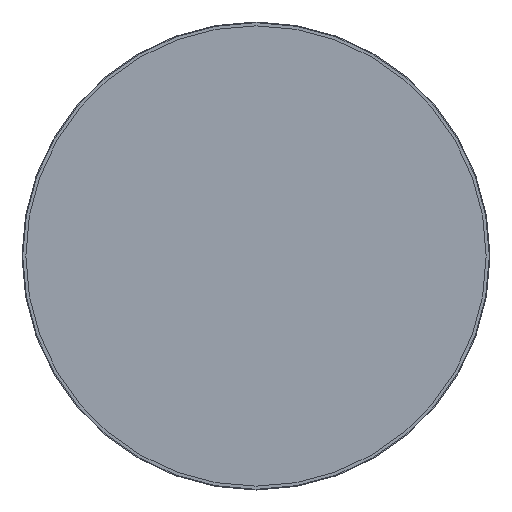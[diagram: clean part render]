
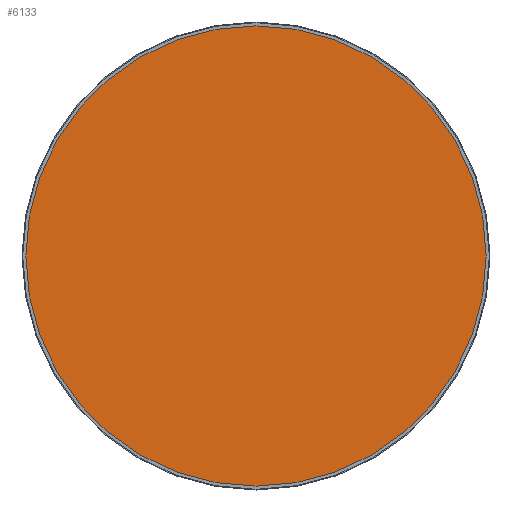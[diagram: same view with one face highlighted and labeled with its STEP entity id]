
A CAD part, front view. The second image highlights one B-rep face of the part: STEP entity #6133.
In plain terms, the highlighted planar face has unit normal (0, -1, 0).
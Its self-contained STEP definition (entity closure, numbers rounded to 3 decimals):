
#404=PLANE('',#6718);
#831=FACE_OUTER_BOUND('',#1226,.T.);
#1226=EDGE_LOOP('',(#5710));
#2671=CIRCLE('',#6717,222.);
#3211=VERTEX_POINT('',#11554);
#4045=EDGE_CURVE('',#3211,#3211,#2671,.T.);
#5710=ORIENTED_EDGE('',*,*,#4045,.F.);
#6133=ADVANCED_FACE('',(#831),#404,.T.);
#6717=AXIS2_PLACEMENT_3D('',#11556,#8413,#8414);
#6718=AXIS2_PLACEMENT_3D('',#11557,#8415,#8416);
#8413=DIRECTION('center_axis',(0.,1.,0.));
#8414=DIRECTION('ref_axis',(1.,0.,0.));
#8415=DIRECTION('center_axis',(0.,-1.,0.));
#8416=DIRECTION('ref_axis',(1.,0.,0.));
#11554=CARTESIAN_POINT('',(-222.,5.,0.));
#11556=CARTESIAN_POINT('Origin',(0.,5.,0.));
#11557=CARTESIAN_POINT('Origin',(0.,5.,0.));
